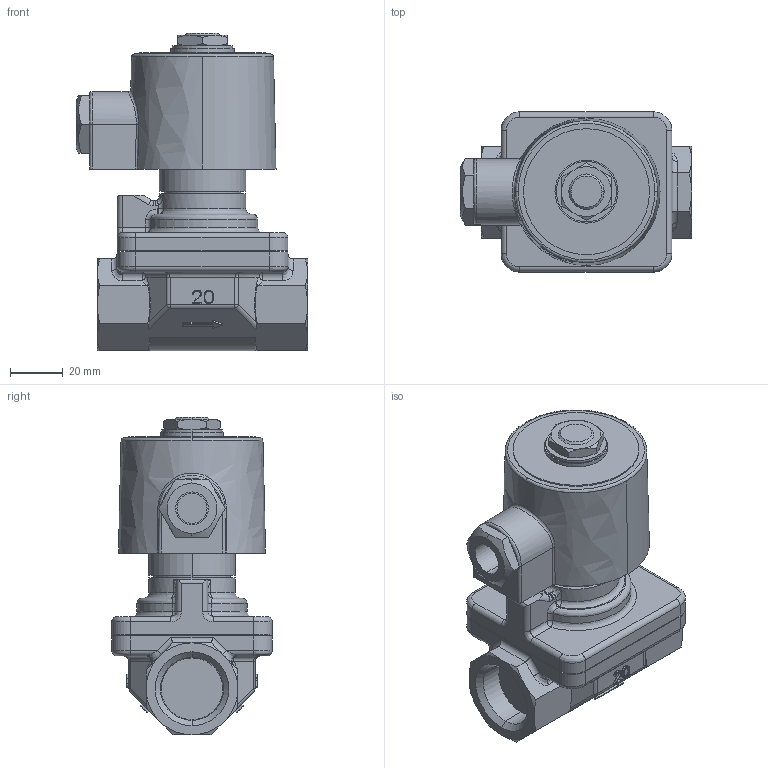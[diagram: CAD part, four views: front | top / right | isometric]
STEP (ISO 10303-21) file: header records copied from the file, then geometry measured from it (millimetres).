
FILE_DESCRIPTION( (''), '2;1');
FILE_NAME ('PC1056.10280.DP-200 20A 3D_13624.stp','2024-07-05T13:41:35',(''),(''),'spGate 19.8.4 (****-****-****-****)','','');
FILE_SCHEMA (('AUTOMOTIVE_DESIGN'));
Length unit declared in the file: millimetre
Bounding box: 88 x 61 x 120.9 mm (x, y, z)
Volume: 276947.7 mm3; surface area: 38598.3 mm2
Topology: 1 solids, 1 shells, 362 faces, 860 edges, 507 vertices
Faces by surface type: bspline 126, cylinder 113, plane 111, sphere 12
Entity records: 20332 total; most frequent: CARTESIAN_POINT 6130, ORIENTED_EDGE 1692, DIRECTION 1282, COLOUR_RGB 1209, PRESENTATION_STYLE_ASSIGNMENT 1209, STYLED_ITEM 1209, EDGE_CURVE 846, DRAUGHTING_PRE_DEFINED_CURVE_FONT 846
